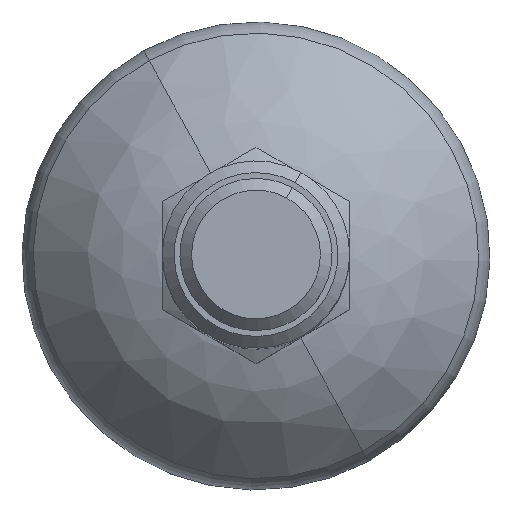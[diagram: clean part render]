
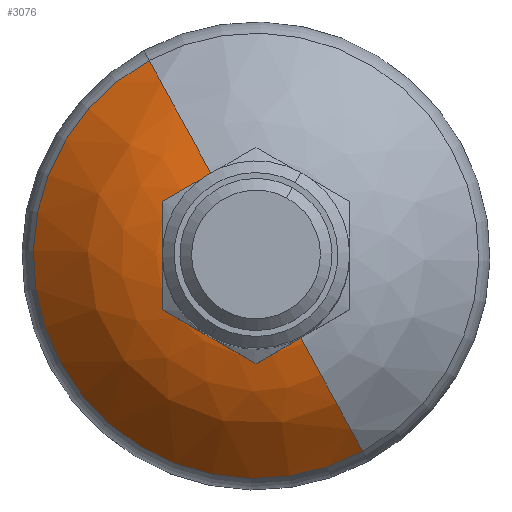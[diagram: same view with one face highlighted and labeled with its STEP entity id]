
A CAD part, top view. The second image highlights one B-rep face of the part: STEP entity #3076.
In plain terms, the highlighted face is a revolution surface.
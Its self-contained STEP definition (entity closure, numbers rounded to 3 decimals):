
#2780=CARTESIAN_POINT('Vertex',(9.127,-16.706,5.951)) ;
#2787=CARTESIAN_POINT('Vertex',(-9.127,16.706,5.951)) ;
#2834=CARTESIAN_POINT('Axis2P3D Location',(0.,0.,5.951)) ;
#2858=CARTESIAN_POINT('Control Point',(-9.127,16.706,5.951)) ;
#2859=CARTESIAN_POINT('Control Point',(-7.971,14.591,9.248)) ;
#2860=CARTESIAN_POINT('Control Point',(-6.383,11.683,11.892)) ;
#2861=CARTESIAN_POINT('Control Point',(-4.502,8.241,13.498)) ;
#2862=CARTESIAN_POINT('Control Point',(-2.559,4.683,13.998)) ;
#2863=CARTESIAN_POINT('Axis1P Location',(0.,0.,-5.852)) ;
#2867=CARTESIAN_POINT('Axis2P3D Location',(-1.386,2.537,-5.852)) ;
#2871=CARTESIAN_POINT('Vertex',(-2.559,4.683,13.998)) ;
#2878=CARTESIAN_POINT('Vertex',(2.559,-4.683,13.998)) ;
#2881=CARTESIAN_POINT('Axis2P3D Location',(1.386,-2.537,-5.852)) ;
#3065=CARTESIAN_POINT('Axis2P3D Location',(0.,0.,13.998)) ;
#2835=DIRECTION('Axis2P3D Direction',(0.,0.,1.)) ;
#2864=DIRECTION('Axis1P Direction',(-0.,-0.,-1.)) ;
#2868=DIRECTION('Axis2P3D Direction',(0.878,0.479,-0.)) ;
#2882=DIRECTION('Axis2P3D Direction',(-0.878,-0.479,0.)) ;
#3066=DIRECTION('Axis2P3D Direction',(0.,0.,1.)) ;
#2836=AXIS2_PLACEMENT_3D('Circle Axis2P3D',#2834,#2835,$) ;
#2869=AXIS2_PLACEMENT_3D('Circle Axis2P3D',#2867,#2868,$) ;
#2883=AXIS2_PLACEMENT_3D('Circle Axis2P3D',#2881,#2882,$) ;
#3067=AXIS2_PLACEMENT_3D('Circle Axis2P3D',#3065,#3066,$) ;
#3071=ORIENTED_EDGE('',*,*,#2873,.F.) ;
#3072=ORIENTED_EDGE('',*,*,#2838,.T.) ;
#3073=ORIENTED_EDGE('',*,*,#2885,.T.) ;
#3074=ORIENTED_EDGE('',*,*,#3069,.F.) ;
#3076=ADVANCED_FACE('PartBody',(#3075),#2866,.F.) ;
#2865=AXIS1_PLACEMENT('Revolution Surface Axis1P',#2863,#2864) ;
#2857=B_SPLINE_CURVE_WITH_KNOTS('',4,(#2858,#2859,#2860,#2861,#2862),.UNSPECIFIED.,.F.,.U.,(5,5),(12.625,28.964),.UNSPECIFIED.) ;
#2837=CIRCLE('generated circle',#2836,19.037) ;
#2870=CIRCLE('generated circle',#2869,20.) ;
#2884=CIRCLE('generated circle',#2883,20.) ;
#3068=CIRCLE('generated circle',#3067,5.337) ;
#2838=EDGE_CURVE('',#2788,#2781,#2837,.T.) ;
#2873=EDGE_CURVE('',#2788,#2872,#2870,.T.) ;
#2885=EDGE_CURVE('',#2781,#2879,#2884,.T.) ;
#3069=EDGE_CURVE('',#2872,#2879,#3068,.T.) ;
#3070=EDGE_LOOP('',(#3071,#3072,#3073,#3074)) ;
#3075=FACE_OUTER_BOUND('',#3070,.T.) ;
#2866=SURFACE_OF_REVOLUTION('homeo Torus',#2857,#2865) ;
#2781=VERTEX_POINT('',#2780) ;
#2788=VERTEX_POINT('',#2787) ;
#2872=VERTEX_POINT('',#2871) ;
#2879=VERTEX_POINT('',#2878) ;
